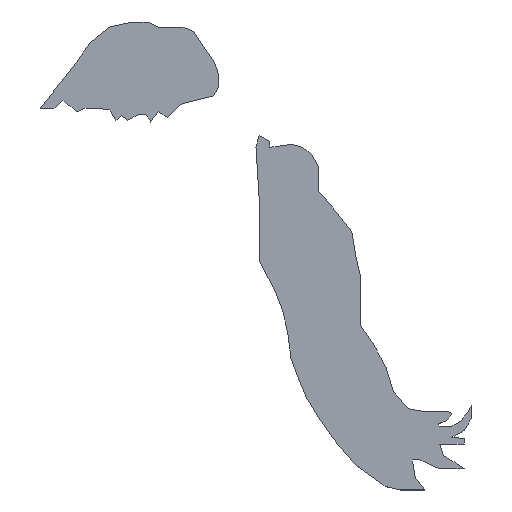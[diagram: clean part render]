
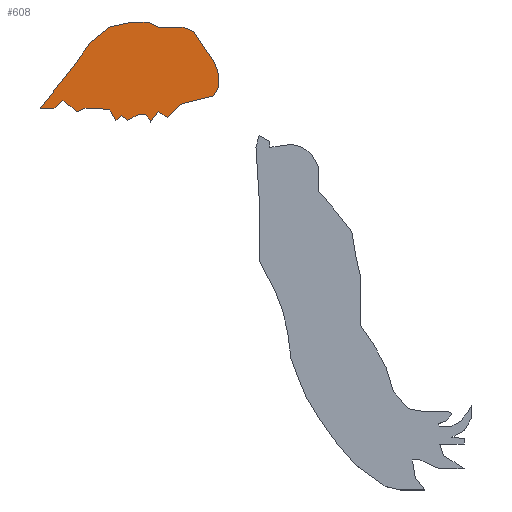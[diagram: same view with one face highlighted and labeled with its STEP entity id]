
A CAD part, top view. The second image highlights one B-rep face of the part: STEP entity #608.
In plain terms, the highlighted planar face has unit normal (0, 0, 1).
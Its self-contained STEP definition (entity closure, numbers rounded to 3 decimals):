
#608=ADVANCED_FACE('',(#1289),#1291,.T.);
#1289=FACE_BOUND('',#1290,.T.);
#1290=EDGE_LOOP('',(#1860,#1861,#1862,#1863,#1864,#1865,#1866,#1867,#1868,#1869,
#1870,#1871,#1872,#1873,#1874,#1875,#1876,#1877,#1878,#1879,#1880,#1881,#1882,#1883,
#1884,#1885,#1886,#1887,#1888,#1889));
#1291=PLANE('',#1292);
#1292=AXIS2_PLACEMENT_3D('',#1293,#1294,#1295);
#1293=CARTESIAN_POINT('',(0.,0.,0.5));
#1294=DIRECTION('',(0.,0.,1.));
#1295=DIRECTION('',(1.,0.,0.));
#1860=ORIENTED_EDGE('',*,*,#2169,.T.);
#1861=ORIENTED_EDGE('',*,*,#2201,.T.);
#1862=ORIENTED_EDGE('',*,*,#2202,.T.);
#1863=ORIENTED_EDGE('',*,*,#2203,.T.);
#1864=ORIENTED_EDGE('',*,*,#2204,.T.);
#1865=ORIENTED_EDGE('',*,*,#2205,.T.);
#1866=ORIENTED_EDGE('',*,*,#2206,.T.);
#1867=ORIENTED_EDGE('',*,*,#2207,.T.);
#1868=ORIENTED_EDGE('',*,*,#2208,.T.);
#1869=ORIENTED_EDGE('',*,*,#2209,.T.);
#1870=ORIENTED_EDGE('',*,*,#2210,.T.);
#1871=ORIENTED_EDGE('',*,*,#2211,.T.);
#1872=ORIENTED_EDGE('',*,*,#2212,.T.);
#1873=ORIENTED_EDGE('',*,*,#2213,.T.);
#1874=ORIENTED_EDGE('',*,*,#2214,.T.);
#1875=ORIENTED_EDGE('',*,*,#2215,.T.);
#1876=ORIENTED_EDGE('',*,*,#2216,.T.);
#1877=ORIENTED_EDGE('',*,*,#2217,.T.);
#1878=ORIENTED_EDGE('',*,*,#2218,.T.);
#1879=ORIENTED_EDGE('',*,*,#2219,.T.);
#1880=ORIENTED_EDGE('',*,*,#2220,.T.);
#1881=ORIENTED_EDGE('',*,*,#2221,.T.);
#1882=ORIENTED_EDGE('',*,*,#2222,.T.);
#1883=ORIENTED_EDGE('',*,*,#2223,.T.);
#1884=ORIENTED_EDGE('',*,*,#2224,.T.);
#1885=ORIENTED_EDGE('',*,*,#2225,.T.);
#1886=ORIENTED_EDGE('',*,*,#2226,.T.);
#1887=ORIENTED_EDGE('',*,*,#2227,.T.);
#1888=ORIENTED_EDGE('',*,*,#2228,.T.);
#1889=ORIENTED_EDGE('',*,*,#2229,.T.);
#2169=EDGE_CURVE('',#2537,#2535,#2538,.T.);
#2201=EDGE_CURVE('',#2535,#2597,#2599,.T.);
#2202=EDGE_CURVE('',#2597,#2600,#2601,.T.);
#2203=EDGE_CURVE('',#2600,#2602,#2603,.T.);
#2204=EDGE_CURVE('',#2602,#2604,#2605,.T.);
#2205=EDGE_CURVE('',#2604,#2606,#2607,.T.);
#2206=EDGE_CURVE('',#2606,#2608,#2609,.T.);
#2207=EDGE_CURVE('',#2608,#2610,#2611,.T.);
#2208=EDGE_CURVE('',#2610,#2612,#2613,.T.);
#2209=EDGE_CURVE('',#2612,#2614,#2615,.T.);
#2210=EDGE_CURVE('',#2614,#2616,#2617,.T.);
#2211=EDGE_CURVE('',#2616,#2618,#2619,.T.);
#2212=EDGE_CURVE('',#2618,#2620,#2621,.T.);
#2213=EDGE_CURVE('',#2620,#2622,#2623,.T.);
#2214=EDGE_CURVE('',#2622,#2624,#2625,.T.);
#2215=EDGE_CURVE('',#2624,#2626,#2627,.T.);
#2216=EDGE_CURVE('',#2626,#2628,#2629,.T.);
#2217=EDGE_CURVE('',#2628,#2630,#2631,.T.);
#2218=EDGE_CURVE('',#2630,#2632,#2633,.T.);
#2219=EDGE_CURVE('',#2632,#2634,#2635,.T.);
#2220=EDGE_CURVE('',#2634,#2636,#2637,.T.);
#2221=EDGE_CURVE('',#2636,#2638,#2639,.T.);
#2222=EDGE_CURVE('',#2638,#2640,#2641,.T.);
#2223=EDGE_CURVE('',#2640,#2642,#2643,.T.);
#2224=EDGE_CURVE('',#2642,#2644,#2645,.T.);
#2225=EDGE_CURVE('',#2644,#2646,#2647,.T.);
#2226=EDGE_CURVE('',#2646,#2648,#2649,.T.);
#2227=EDGE_CURVE('',#2648,#2650,#2651,.T.);
#2228=EDGE_CURVE('',#2650,#2652,#2653,.T.);
#2229=EDGE_CURVE('',#2652,#2537,#2654,.T.);
#2535=VERTEX_POINT('',#3292);
#2537=VERTEX_POINT('',#3296);
#2538=LINE('',#3297,#3298);
#2597=VERTEX_POINT('',#3418);
#2599=LINE('',#3422,#3423);
#2600=VERTEX_POINT('',#3425);
#2601=LINE('',#3426,#3427);
#2602=VERTEX_POINT('',#3429);
#2603=LINE('',#3430,#3431);
#2604=VERTEX_POINT('',#3433);
#2605=LINE('',#3434,#3435);
#2606=VERTEX_POINT('',#3437);
#2607=LINE('',#3438,#3439);
#2608=VERTEX_POINT('',#3441);
#2609=LINE('',#3442,#3443);
#2610=VERTEX_POINT('',#3445);
#2611=LINE('',#3446,#3447);
#2612=VERTEX_POINT('',#3449);
#2613=LINE('',#3450,#3451);
#2614=VERTEX_POINT('',#3453);
#2615=LINE('',#3454,#3455);
#2616=VERTEX_POINT('',#3457);
#2617=LINE('',#3458,#3459);
#2618=VERTEX_POINT('',#3461);
#2619=LINE('',#3462,#3463);
#2620=VERTEX_POINT('',#3465);
#2621=LINE('',#3466,#3467);
#2622=VERTEX_POINT('',#3469);
#2623=LINE('',#3470,#3471);
#2624=VERTEX_POINT('',#3473);
#2625=LINE('',#3474,#3475);
#2626=VERTEX_POINT('',#3477);
#2627=LINE('',#3478,#3479);
#2628=VERTEX_POINT('',#3481);
#2629=LINE('',#3482,#3483);
#2630=VERTEX_POINT('',#3485);
#2631=LINE('',#3486,#3487);
#2632=VERTEX_POINT('',#3489);
#2633=LINE('',#3490,#3491);
#2634=VERTEX_POINT('',#3493);
#2635=LINE('',#3494,#3495);
#2636=VERTEX_POINT('',#3497);
#2637=LINE('',#3498,#3499);
#2638=VERTEX_POINT('',#3501);
#2639=LINE('',#3502,#3503);
#2640=VERTEX_POINT('',#3505);
#2641=LINE('',#3506,#3507);
#2642=VERTEX_POINT('',#3509);
#2643=LINE('',#3510,#3511);
#2644=VERTEX_POINT('',#3513);
#2645=LINE('',#3514,#3515);
#2646=VERTEX_POINT('',#3517);
#2647=LINE('',#3518,#3519);
#2648=VERTEX_POINT('',#3521);
#2649=LINE('',#3522,#3523);
#2650=VERTEX_POINT('',#3525);
#2651=LINE('',#3526,#3527);
#2652=VERTEX_POINT('',#3529);
#2653=LINE('',#3530,#3531);
#2654=LINE('',#3533,#3534);
#3292=CARTESIAN_POINT('',(-5.396,20.07,0.5));
#3296=CARTESIAN_POINT('',(-3.507,20.485,0.5));
#3297=CARTESIAN_POINT('',(-3.507,20.485,0.5));
#3298=VECTOR('',#3299,1.);
#3299=DIRECTION('',(-0.977,-0.215,0.));
#3418=CARTESIAN_POINT('',(-6.923,18.878,0.5));
#3422=CARTESIAN_POINT('',(-5.396,20.07,0.5));
#3423=VECTOR('',#3424,1.);
#3424=DIRECTION('',(-0.788,-0.615,0.));
#3425=CARTESIAN_POINT('',(-8.439,16.77,0.5));
#3426=CARTESIAN_POINT('',(-6.923,18.878,0.5));
#3427=VECTOR('',#3428,1.);
#3428=DIRECTION('',(-0.584,-0.812,0.));
#3429=CARTESIAN_POINT('',(-11.092,13.42,0.5));
#3430=CARTESIAN_POINT('',(-8.439,16.77,0.5));
#3431=VECTOR('',#3432,1.);
#3432=DIRECTION('',(-0.621,-0.784,0.));
#3433=CARTESIAN_POINT('',(-9.962,13.42,0.5));
#3434=CARTESIAN_POINT('',(-11.092,13.42,0.5));
#3435=VECTOR('',#3436,1.);
#3436=DIRECTION('',(1.,0.,0.));
#3437=CARTESIAN_POINT('',(-9.226,14.097,0.5));
#3438=CARTESIAN_POINT('',(-9.962,13.42,0.5));
#3439=VECTOR('',#3440,1.);
#3440=DIRECTION('',(0.736,0.677,0.));
#3441=CARTESIAN_POINT('',(-8.831,13.758,0.5));
#3442=CARTESIAN_POINT('',(-9.226,14.097,0.5));
#3443=VECTOR('',#3444,1.);
#3444=DIRECTION('',(0.759,-0.651,0.));
#3445=CARTESIAN_POINT('',(-8.047,13.137,0.5));
#3446=CARTESIAN_POINT('',(-8.831,13.758,0.5));
#3447=VECTOR('',#3448,1.);
#3448=DIRECTION('',(0.784,-0.621,0.));
#3449=CARTESIAN_POINT('',(-7.423,13.448,0.5));
#3450=CARTESIAN_POINT('',(-8.047,13.137,0.5));
#3451=VECTOR('',#3452,1.);
#3452=DIRECTION('',(0.895,0.445,0.));
#3453=CARTESIAN_POINT('',(-6.423,13.448,0.5));
#3454=CARTESIAN_POINT('',(-7.423,13.448,0.5));
#3455=VECTOR('',#3456,1.);
#3456=DIRECTION('',(1.,0.,0.));
#3457=CARTESIAN_POINT('',(-5.396,13.292,0.5));
#3458=CARTESIAN_POINT('',(-6.423,13.448,0.5));
#3459=VECTOR('',#3460,1.);
#3460=DIRECTION('',(0.989,-0.149,0.));
#3461=CARTESIAN_POINT('',(-4.891,12.429,0.5));
#3462=CARTESIAN_POINT('',(-5.396,13.292,0.5));
#3463=VECTOR('',#3464,1.);
#3464=DIRECTION('',(0.505,-0.863,0.));
#3465=CARTESIAN_POINT('',(-4.459,12.861,0.5));
#3466=CARTESIAN_POINT('',(-4.891,12.429,0.5));
#3467=VECTOR('',#3468,1.);
#3468=DIRECTION('',(0.707,0.707,0.));
#3469=CARTESIAN_POINT('',(-3.943,12.429,0.5));
#3470=CARTESIAN_POINT('',(-4.459,12.861,0.5));
#3471=VECTOR('',#3472,1.);
#3472=DIRECTION('',(0.768,-0.641,0.));
#3473=CARTESIAN_POINT('',(-3.071,12.919,0.5));
#3474=CARTESIAN_POINT('',(-3.943,12.429,0.5));
#3475=VECTOR('',#3476,1.);
#3476=DIRECTION('',(0.872,0.489,0.));
#3477=CARTESIAN_POINT('',(-2.472,12.919,0.5));
#3478=CARTESIAN_POINT('',(-3.071,12.919,0.5));
#3479=VECTOR('',#3480,1.);
#3480=DIRECTION('',(1.,0.,0.));
#3481=CARTESIAN_POINT('',(-2.064,12.429,0.5));
#3482=CARTESIAN_POINT('',(-2.472,12.919,0.5));
#3483=VECTOR('',#3484,1.);
#3484=DIRECTION('',(0.64,-0.768,0.));
#3485=CARTESIAN_POINT('',(-2.064,12.309,0.5));
#3486=CARTESIAN_POINT('',(-2.064,12.429,0.5));
#3487=VECTOR('',#3488,1.);
#3488=DIRECTION('',(0.,-1.,0.));
#3489=CARTESIAN_POINT('',(-1.408,13.137,0.5));
#3490=CARTESIAN_POINT('',(-2.064,12.309,0.5));
#3491=VECTOR('',#3492,1.);
#3492=DIRECTION('',(0.621,0.784,0.));
#3493=CARTESIAN_POINT('',(-0.696,12.674,0.5));
#3494=CARTESIAN_POINT('',(-1.408,13.137,0.5));
#3495=VECTOR('',#3496,1.);
#3496=DIRECTION('',(0.838,-0.545,0.));
#3497=CARTESIAN_POINT('',(0.358,13.758,0.5));
#3498=CARTESIAN_POINT('',(-0.696,12.674,0.5));
#3499=VECTOR('',#3500,1.);
#3500=DIRECTION('',(0.697,0.717,0.));
#3501=CARTESIAN_POINT('',(3.109,14.45,0.5));
#3502=CARTESIAN_POINT('',(0.358,13.758,0.5));
#3503=VECTOR('',#3504,1.);
#3504=DIRECTION('',(0.97,0.244,0.));
#3505=CARTESIAN_POINT('',(3.52,15.205,0.5));
#3506=CARTESIAN_POINT('',(3.109,14.45,0.5));
#3507=VECTOR('',#3508,1.);
#3508=DIRECTION('',(0.478,0.878,0.));
#3509=CARTESIAN_POINT('',(3.52,16.224,0.5));
#3510=CARTESIAN_POINT('',(3.52,15.205,0.5));
#3511=VECTOR('',#3512,1.);
#3512=DIRECTION('',(0.,1.,0.));
#3513=CARTESIAN_POINT('',(3.109,17.234,0.5));
#3514=CARTESIAN_POINT('',(3.52,16.224,0.5));
#3515=VECTOR('',#3516,1.);
#3516=DIRECTION('',(-0.377,0.926,0.));
#3517=CARTESIAN_POINT('',(1.496,19.644,0.5));
#3518=CARTESIAN_POINT('',(3.109,17.234,0.5));
#3519=VECTOR('',#3520,1.);
#3520=DIRECTION('',(-0.556,0.831,0.));
#3521=CARTESIAN_POINT('',(0.592,20.07,0.5));
#3522=CARTESIAN_POINT('',(1.496,19.644,0.5));
#3523=VECTOR('',#3524,1.);
#3524=DIRECTION('',(-0.905,0.426,0.));
#3525=CARTESIAN_POINT('',(-1.408,20.07,0.5));
#3526=CARTESIAN_POINT('',(0.592,20.07,0.5));
#3527=VECTOR('',#3528,1.);
#3528=DIRECTION('',(-1.,0.,0.));
#3529=CARTESIAN_POINT('',(-2.268,20.485,0.5));
#3530=CARTESIAN_POINT('',(-1.408,20.07,0.5));
#3531=VECTOR('',#3532,1.);
#3532=DIRECTION('',(-0.9,0.435,0.));
#3533=CARTESIAN_POINT('',(-2.268,20.485,0.5));
#3534=VECTOR('',#3535,1.);
#3535=DIRECTION('',(-1.,0.,0.));
